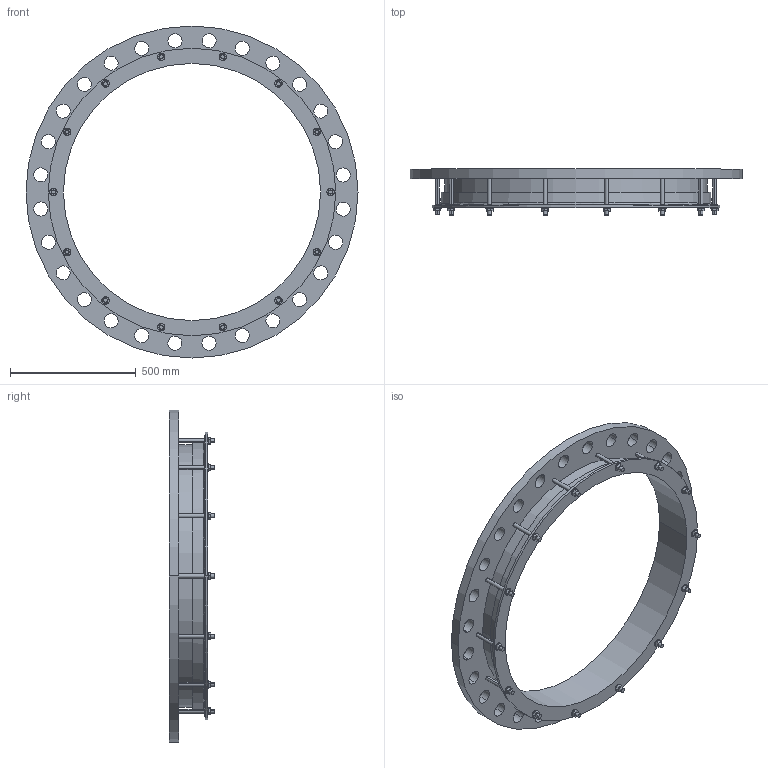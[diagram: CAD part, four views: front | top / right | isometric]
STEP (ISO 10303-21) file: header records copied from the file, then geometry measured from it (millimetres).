
FILE_DESCRIPTION((''),'2;1');
FILE_NAME('1019X1000PN25','2019-04-04T',('mfairey'),('Glynwed Pipe Systems'),'CREO PARAMETRIC BY PTC INC, 2016130','CREO PARAMETRIC BY PTC INC, 2016130','');
FILE_SCHEMA(('CONFIG_CONTROL_DESIGN'));
Length unit declared in the file: millimetre
Products named in the file (1): 1019X1000PN25
Bounding box: 1320 x 182 x 1320 mm (x, y, z)
Volume: 27025755.4 mm3; surface area: 2584771.2 mm2
Topology: 1 solids, 1 shells, 284 faces, 752 edges, 500 vertices
Faces by surface type: cylinder 148, plane 130, cone 4, torus 2
Entity records: 10014 total; most frequent: CARTESIAN_POINT 2568, DIRECTION 1548, ORIENTED_EDGE 1504, EDGE_CURVE 752, AXIS2_PLACEMENT_3D 572, VERTEX_POINT 500, VECTOR 404, LINE 404
